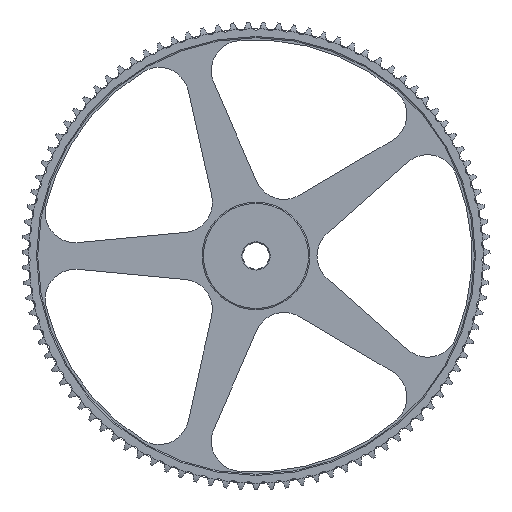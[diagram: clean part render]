
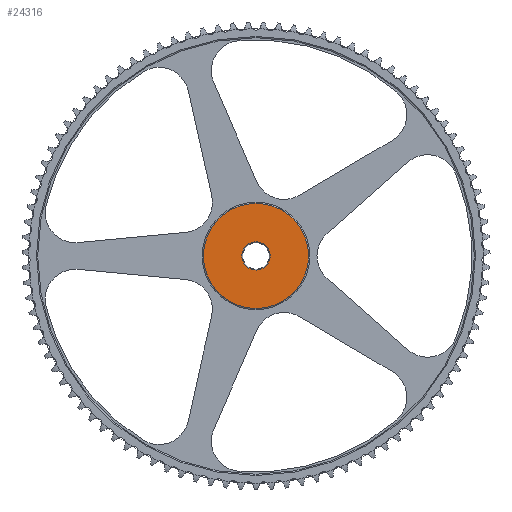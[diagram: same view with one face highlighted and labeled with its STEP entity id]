
A CAD part, left-side view. The second image highlights one B-rep face of the part: STEP entity #24316.
In plain terms, the highlighted planar face has unit normal (-1, 0, 0).
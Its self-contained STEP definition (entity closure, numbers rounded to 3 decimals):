
#48=FACE_BOUND('',#4528,.T.);
#479=PLANE('',#27129);
#2074=CIRCLE('',#27128,87.5);
#2075=CIRCLE('',#27130,23.5);
#3291=FACE_OUTER_BOUND('',#4527,.T.);
#4527=EDGE_LOOP('',(#21694));
#4528=EDGE_LOOP('',(#21695));
#10355=VERTEX_POINT('',#48356);
#10356=VERTEX_POINT('',#48359);
#14336=EDGE_CURVE('',#10355,#10355,#2074,.T.);
#14337=EDGE_CURVE('',#10356,#10356,#2075,.T.);
#21694=ORIENTED_EDGE('',*,*,#14336,.T.);
#21695=ORIENTED_EDGE('',*,*,#14337,.F.);
#24316=ADVANCED_FACE('',(#3291,#48),#479,.T.);
#27128=AXIS2_PLACEMENT_3D('',#48357,#33587,#33588);
#27129=AXIS2_PLACEMENT_3D('',#48358,#33589,#33590);
#27130=AXIS2_PLACEMENT_3D('',#48360,#33591,#33592);
#33587=DIRECTION('center_axis',(-1.,0.,0.));
#33588=DIRECTION('ref_axis',(0.,0.,1.));
#33589=DIRECTION('center_axis',(-1.,0.,0.));
#33590=DIRECTION('ref_axis',(0.,0.,1.));
#33591=DIRECTION('center_axis',(-1.,0.,0.));
#33592=DIRECTION('ref_axis',(0.,0.,1.));
#48356=CARTESIAN_POINT('',(-2.977,290.677,0.));
#48357=CARTESIAN_POINT('Origin',(-2.977,378.177,0.));
#48358=CARTESIAN_POINT('Origin',(-2.977,354.677,0.));
#48359=CARTESIAN_POINT('',(-2.977,354.677,0.));
#48360=CARTESIAN_POINT('Origin',(-2.977,378.177,0.));
